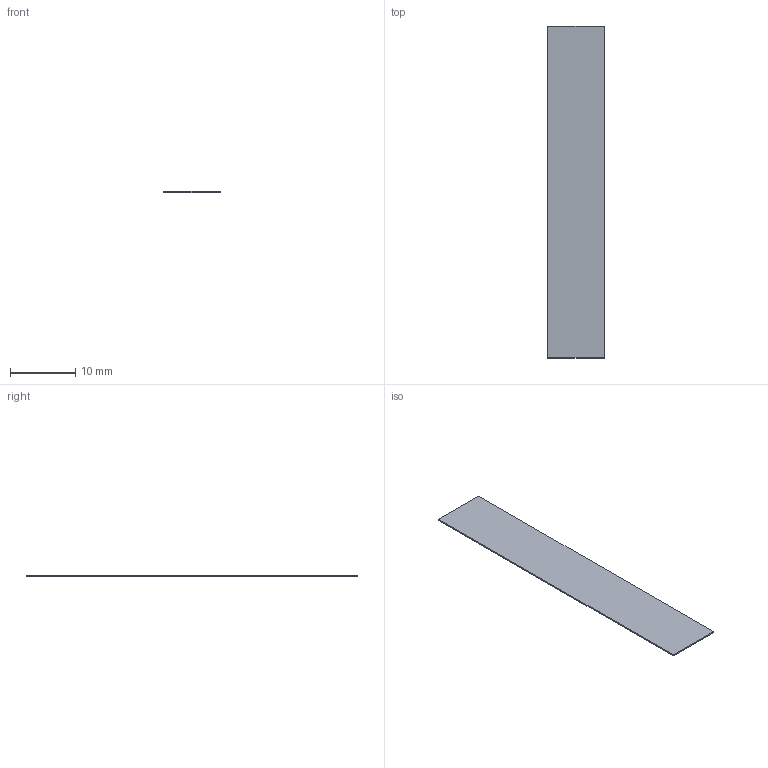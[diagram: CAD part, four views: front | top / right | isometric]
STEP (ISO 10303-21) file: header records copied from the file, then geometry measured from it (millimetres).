
FILE_DESCRIPTION(('CATIA V5 STEP Exchange','CAx-IF Rec.Pracs.--- Model Styling and Organization---1.4--- 2014-01-23'),'2;1');
FILE_NAME('F:\Firma-Sicherungskopie\Projekte\821253_Rockwell-Clear-MultiPrint-2020\Simple3D\PN-582664_1492-MHS5X50.stp','2020-11-04T07:49:48+00:00',('none'),('none'),'CATIA Version 5-6 Release 2016 SP3 HF44','CATIA V5 STEP AP214','none');
FILE_SCHEMA(('AUTOMOTIVE_DESIGN { 1 0 10303 214 1 1 1 1 }'));
Length unit declared in the file: millimetre
Products named in the file (1): 63260_HS_1-6_4-8X50_MM
Bounding box: 8.7 x 50.8 x 0.2 mm (x, y, z)
Volume: 88.4 mm3; surface area: 907.7 mm2
Topology: 1 solids, 1 shells, 6 faces, 12 edges, 8 vertices
Faces by surface type: plane 6
Entity records: 177 total; most frequent: CARTESIAN_POINT 27, DIRECTION 24, ORIENTED_EDGE 24, VECTOR 12, EDGE_CURVE 12, LINE 12, VERTEX_POINT 8, AXIS2_PLACEMENT_3D 7
